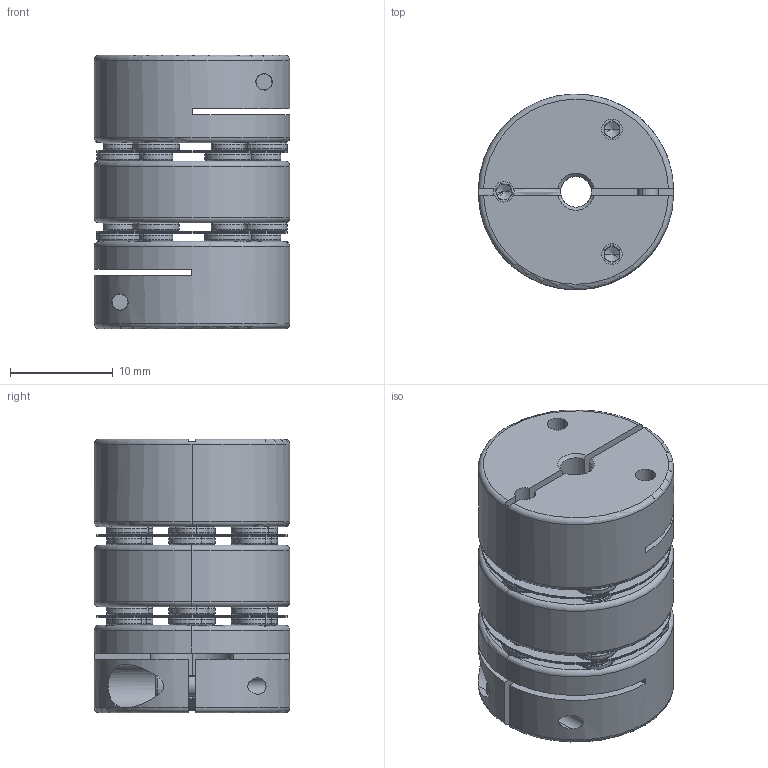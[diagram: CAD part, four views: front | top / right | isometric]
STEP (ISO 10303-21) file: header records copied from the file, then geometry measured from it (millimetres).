
FILE_DESCRIPTION (( 'STEP AP203' ), '1' );
FILE_NAME ('SADW-19C-3-8.STEP', '2019-10-22T09:38:55', ( '' ), ( '' ), 'SwSTEP 2.0', 'SolidWorks 2017', '' );
FILE_SCHEMA (( 'CONFIG_CONTROL_DESIGN' ));
Length unit declared in the file: metre
Products named in the file (1): SADW-19C-3-8
Bounding box: 19 x 19 x 26.6 mm (x, y, z)
Volume: 5319.6 mm3; surface area: 7813.7 mm2
Topology: 45 solids, 45 shells, 1048 faces, 2326 edges, 1362 vertices
Faces by surface type: cylinder 340, plane 306, cone 206, torus 190, bspline 6
Entity records: 30007 total; most frequent: CARTESIAN_POINT 5891, DIRECTION 5602, ORIENTED_EDGE 4580, AXIS2_PLACEMENT_3D 2339, EDGE_CURVE 2290, VERTEX_POINT 1362, CIRCLE 1296, EDGE_LOOP 1232
